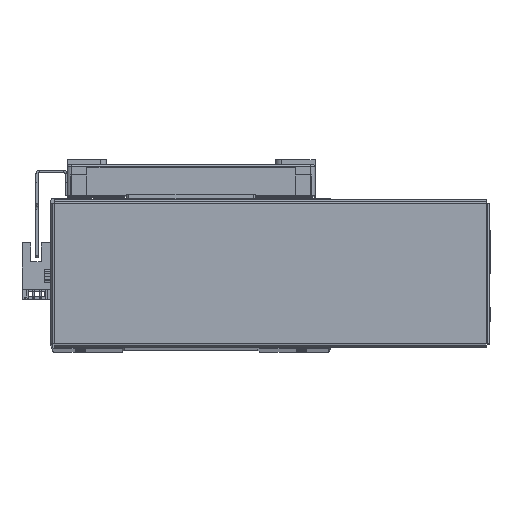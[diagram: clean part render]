
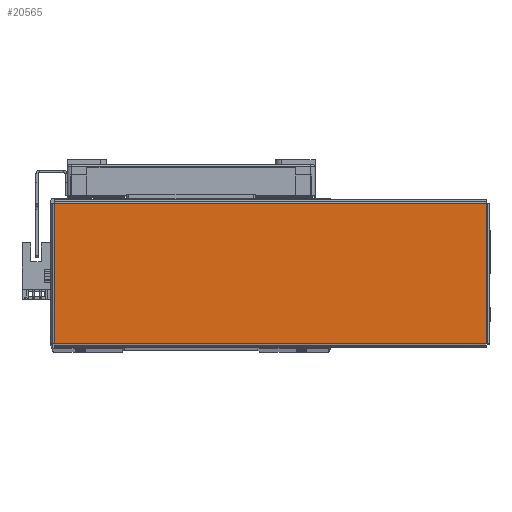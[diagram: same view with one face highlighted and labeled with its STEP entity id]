
A CAD part, top view. The second image highlights one B-rep face of the part: STEP entity #20565.
In plain terms, the highlighted planar face has unit normal (0, 0, 1) as drawn and (0, -1, 0) by its records, which use the part's own axes.
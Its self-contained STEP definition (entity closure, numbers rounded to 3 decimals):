
#416 = LINE ( 'NONE', #31883, #417 ) ;
#417 = VECTOR ( 'NONE', #31866, 1000. ) ;
#1122 = LINE ( 'NONE', #31610, #1123 ) ;
#1123 = VECTOR ( 'NONE', #31596, 1000. ) ;
#1166 = LINE ( 'NONE', #31794, #1182 ) ;
#1182 = VECTOR ( 'NONE', #31736, 1000. ) ;
#19774 = VERTEX_POINT ( 'NONE', #56410 ) ;
#19781 = VERTEX_POINT ( 'NONE', #56420 ) ;
#19866 = VERTEX_POINT ( 'NONE', #56508 ) ;
#19888 = VERTEX_POINT ( 'NONE', #56524 ) ;
#20565 = ADVANCED_FACE ( 'NONE', ( #37957 ), #44357, .F. ) ;
#22463 = AXIS2_PLACEMENT_3D ( 'NONE', #44423, #44396, #44427 ) ;
#24176 = LINE ( 'NONE', #31930, #24209 ) ;
#24209 = VECTOR ( 'NONE', #32013, 1000. ) ;
#26405 = ORIENTED_EDGE ( 'NONE', *, *, #27937, .T. ) ;
#26415 = ORIENTED_EDGE ( 'NONE', *, *, #27885, .T. ) ;
#26455 = ORIENTED_EDGE ( 'NONE', *, *, #27982, .T. ) ;
#26459 = ORIENTED_EDGE ( 'NONE', *, *, #27949, .T. ) ;
#27885 = EDGE_CURVE ( 'NONE', #19866, #19781, #1122, .T. ) ;
#27937 = EDGE_CURVE ( 'NONE', #19781, #19888, #1166, .T. ) ;
#27949 = EDGE_CURVE ( 'NONE', #19888, #19774, #416, .T. ) ;
#27982 = EDGE_CURVE ( 'NONE', #19774, #19866, #24176, .T. ) ;
#31596 = DIRECTION ( 'NONE',  ( 0., 0., 1. ) ) ;
#31610 = CARTESIAN_POINT ( 'NONE',  ( 103.763, -1., -33.793 ) ) ;
#31736 = DIRECTION ( 'NONE',  ( -1., 0., 0. ) ) ;
#31794 = CARTESIAN_POINT ( 'NONE',  ( 103.793, -1., 33.763 ) ) ;
#31866 = DIRECTION ( 'NONE',  ( 0., 0., -1. ) ) ;
#31883 = CARTESIAN_POINT ( 'NONE',  ( -103.763, -1., 33.793 ) ) ;
#31930 = CARTESIAN_POINT ( 'NONE',  ( -103.793, -1., -33.763 ) ) ;
#32013 = DIRECTION ( 'NONE',  ( 1., 0., 0. ) ) ;
#37957 = FACE_OUTER_BOUND ( 'NONE', #38498, .T. ) ;
#38498 = EDGE_LOOP ( 'NONE', ( #26405, #26459, #26455, #26415 ) ) ;
#44357 = PLANE ( 'NONE',  #22463 ) ;
#44396 = DIRECTION ( 'NONE',  ( 0., 1., 0. ) ) ;
#44423 = CARTESIAN_POINT ( 'NONE',  ( 0., -1., 0. ) ) ;
#44427 = DIRECTION ( 'NONE',  ( 0., 0., 1. ) ) ;
#56410 = CARTESIAN_POINT ( 'NONE',  ( -103.763, -1., -33.763 ) ) ;
#56420 = CARTESIAN_POINT ( 'NONE',  ( 103.763, -1., 33.763 ) ) ;
#56508 = CARTESIAN_POINT ( 'NONE',  ( 103.763, -1., -33.763 ) ) ;
#56524 = CARTESIAN_POINT ( 'NONE',  ( -103.763, -1., 33.763 ) ) ;
